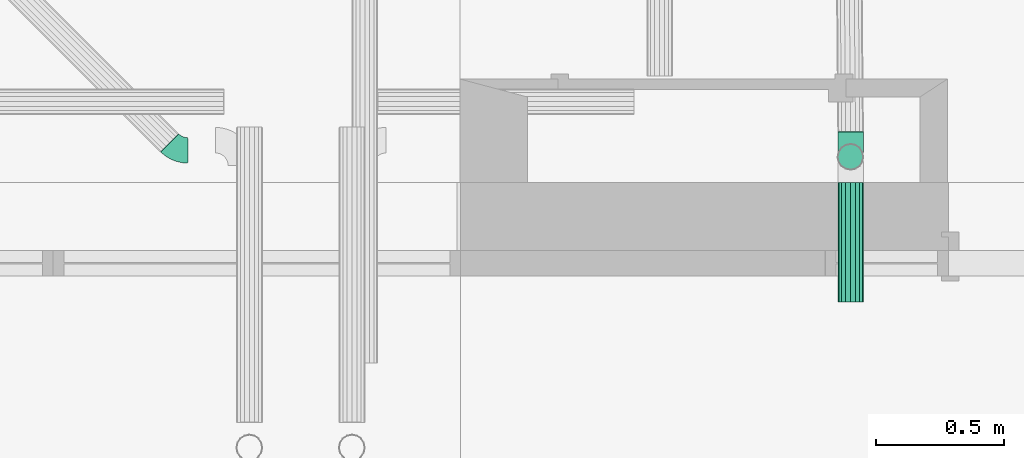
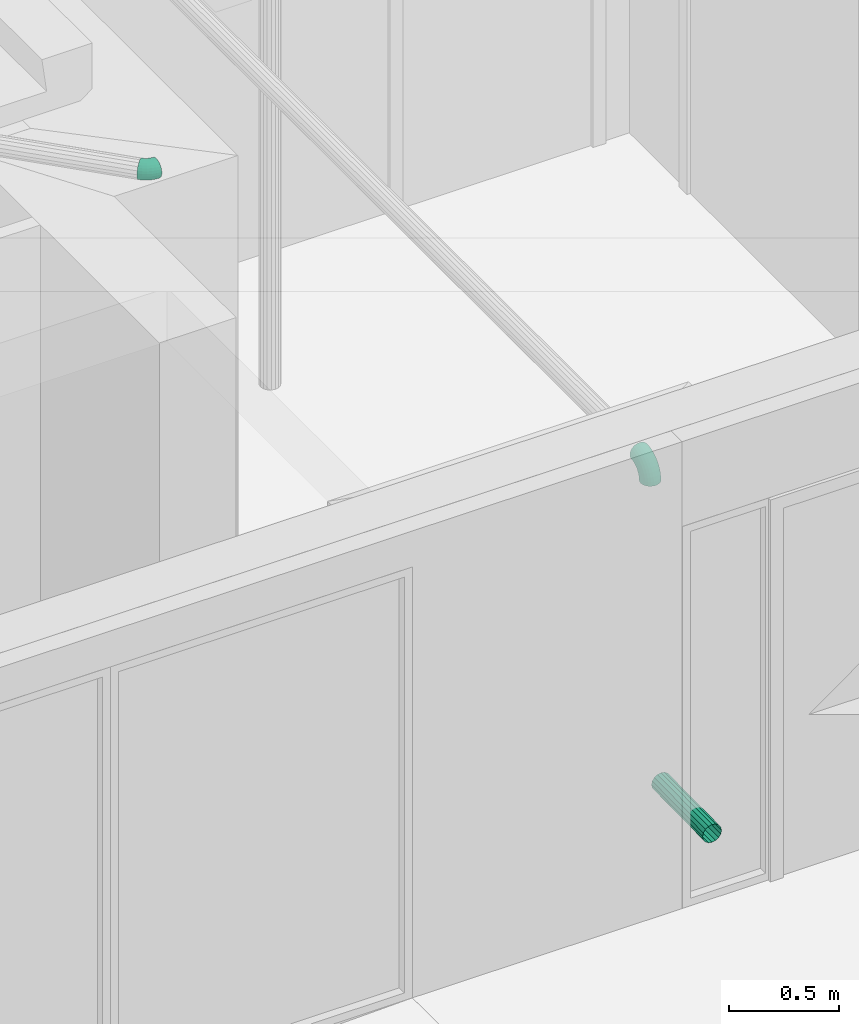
# One storey, part 72 of 108: 2 flow fittings, 1 flow segment.
"""IFC2X3 building model written with IfcOpenShell, lengths in metres."""

from ifc_helpers import new_model, entity, si_unit, converted_unit, derived_unit, money_unit, direction, frame, origin_with_axes, place, context, subcontext, project, spatial, open_shell, faceted_brep, surface_model, material, type_object, element, save


model = new_model("IFC2X3")

# Units and contexts
model_context = context("Model", 3, precision=1e-05, world=origin_with_axes(), true_north=direction((0.0, 1.0)))
body_context = subcontext(model_context, "Body", "Model", "MODEL_VIEW", scale=1.0)
ifc_project = project(units=[si_unit("LENGTHUNIT", "METRE"), si_unit("AREAUNIT", "SQUARE_METRE"), si_unit("VOLUMEUNIT", "CUBIC_METRE"), si_unit("ABSORBEDDOSEUNIT", "GRAY"), si_unit("AMOUNTOFSUBSTANCEUNIT", "MOLE"), si_unit("DOSEEQUIVALENTUNIT", "SIEVERT"), si_unit("ELECTRICCAPACITANCEUNIT", "FARAD"), si_unit("ELECTRICCHARGEUNIT", "COULOMB"), si_unit("ELECTRICCONDUCTANCEUNIT", "SIEMENS"), si_unit("ELECTRICCURRENTUNIT", "AMPERE"), si_unit("ELECTRICRESISTANCEUNIT", "OHM"), si_unit("ELECTRICVOLTAGEUNIT", "VOLT"), si_unit("ENERGYUNIT", "JOULE"), si_unit("FORCEUNIT", "NEWTON"), si_unit("FREQUENCYUNIT", "HERTZ"), si_unit("ILLUMINANCEUNIT", "LUX"), si_unit("INDUCTANCEUNIT", "HENRY"), si_unit("LUMINOUSFLUXUNIT", "LUMEN"), si_unit("LUMINOUSINTENSITYUNIT", "CANDELA"), si_unit("MAGNETICFLUXDENSITYUNIT", "TESLA"), si_unit("MAGNETICFLUXUNIT", "WEBER"), si_unit("MASSUNIT", "GRAM"), converted_unit("PLANEANGLEUNIT", "degree", entity("IfcReal", 0.0174532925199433), si_unit("PLANEANGLEUNIT", "RADIAN"), dimensions=[0, 0, 0, 0, 0, 0, 0]), si_unit("POWERUNIT", "WATT"), si_unit("PRESSUREUNIT", "PASCAL"), si_unit("RADIOACTIVITYUNIT", "BECQUEREL"), si_unit("SOLIDANGLEUNIT", "STERADIAN"), si_unit("THERMODYNAMICTEMPERATUREUNIT", "KELVIN"), si_unit("TIMEUNIT", "SECOND"), derived_unit("ACCELERATIONUNIT", [(si_unit("LENGTHUNIT", "METRE"), 1), (si_unit("TIMEUNIT", "SECOND"), -2)]), derived_unit("ANGULARVELOCITYUNIT", [(converted_unit("PLANEANGLEUNIT", "degree", entity("IfcReal", 0.0174532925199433), si_unit("PLANEANGLEUNIT", "RADIAN"), dimensions=[0, 0, 0, 0, 0, 0, 0]), 1), (si_unit("TIMEUNIT", "SECOND"), -1)]), derived_unit("CURVATUREUNIT", [(converted_unit("PLANEANGLEUNIT", "degree", entity("IfcReal", 0.0174532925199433), si_unit("PLANEANGLEUNIT", "RADIAN"), dimensions=[0, 0, 0, 0, 0, 0, 0]), 1), (si_unit("LENGTHUNIT", "METRE"), -1)]), derived_unit("DYNAMICVISCOSITYUNIT", [(si_unit("PRESSUREUNIT", "PASCAL"), 1), (si_unit("TIMEUNIT", "SECOND"), 1)]), derived_unit("HEATFLUXDENSITYUNIT", [(si_unit("POWERUNIT", "WATT"), 1), (si_unit("LENGTHUNIT", "METRE"), -2)]), derived_unit("HEATINGVALUEUNIT", [(si_unit("ENERGYUNIT", "JOULE"), 1), (si_unit("MASSUNIT", "GRAM"), -1)]), derived_unit("INTEGERCOUNTRATEUNIT", [(si_unit("TIMEUNIT", "SECOND"), -1)]), derived_unit("IONCONCENTRATIONUNIT", [(si_unit("MASSUNIT", "GRAM"), 1), (si_unit("VOLUMEUNIT", "CUBIC_METRE"), -1)]), derived_unit("ISOTHERMALMOISTURECAPACITYUNIT", [(si_unit("VOLUMEUNIT", "CUBIC_METRE"), 1), (si_unit("MASSUNIT", "GRAM"), -1)]), derived_unit("KINEMATICVISCOSITYUNIT", [(si_unit("AREAUNIT", "SQUARE_METRE"), 1), (si_unit("TIMEUNIT", "SECOND"), -1)]), derived_unit("LINEARFORCEUNIT", [(si_unit("FORCEUNIT", "NEWTON"), 1), (si_unit("LENGTHUNIT", "METRE"), -1)]), derived_unit("LINEARMOMENTUNIT", [(si_unit("FORCEUNIT", "NEWTON"), 1), (si_unit("LENGTHUNIT", "METRE"), -1)]), derived_unit("LINEARSTIFFNESSUNIT", [(si_unit("FORCEUNIT", "NEWTON"), 1), (si_unit("LENGTHUNIT", "METRE"), -1)]), derived_unit("LINEARVELOCITYUNIT", [(si_unit("LENGTHUNIT", "METRE"), 1), (si_unit("TIMEUNIT", "SECOND"), -1)]), derived_unit("LUMINOUSINTENSITYDISTRIBUTIONUNIT", [(si_unit("LUMINOUSINTENSITYUNIT", "CANDELA"), 1), (si_unit("LUMINOUSFLUXUNIT", "LUMEN"), -1)]), derived_unit("MASSDENSITYUNIT", [(si_unit("MASSUNIT", "GRAM"), 1), (si_unit("VOLUMEUNIT", "CUBIC_METRE"), -1)]), derived_unit("MASSFLOWRATEUNIT", [(si_unit("MASSUNIT", "GRAM"), 1), (si_unit("TIMEUNIT", "SECOND"), -1)]), derived_unit("MASSPERLENGTHUNIT", [(si_unit("MASSUNIT", "GRAM"), 1), (si_unit("LENGTHUNIT", "METRE"), -1)]), derived_unit("MODULUSOFELASTICITYUNIT", [(si_unit("FORCEUNIT", "NEWTON"), 1), (si_unit("AREAUNIT", "SQUARE_METRE"), -1)]), derived_unit("MODULUSOFLINEARSUBGRADEREACTIONUNIT", [(si_unit("FORCEUNIT", "NEWTON"), 1), (si_unit("LENGTHUNIT", "METRE"), -2)]), derived_unit("MODULUSOFROTATIONALSUBGRADEREACTIONUNIT", [(si_unit("FORCEUNIT", "NEWTON"), 1), (si_unit("LENGTHUNIT", "METRE"), 1)]), derived_unit("MODULUSOFSUBGRADEREACTIONUNIT", [(si_unit("FORCEUNIT", "NEWTON"), 1), (si_unit("VOLUMEUNIT", "CUBIC_METRE"), -1)]), derived_unit("MOISTUREDIFFUSIVITYUNIT", [(si_unit("VOLUMEUNIT", "CUBIC_METRE"), 1), (si_unit("TIMEUNIT", "SECOND"), -1)]), derived_unit("MOLECULARWEIGHTUNIT", [(si_unit("MASSUNIT", "GRAM"), 1), (si_unit("AMOUNTOFSUBSTANCEUNIT", "MOLE"), -1)]), derived_unit("PLANARFORCEUNIT", [(si_unit("FORCEUNIT", "NEWTON"), 1), (si_unit("LENGTHUNIT", "METRE"), -2)]), derived_unit("ROTATIONALFREQUENCYUNIT", [(si_unit("TIMEUNIT", "SECOND"), -1)]), derived_unit("ROTATIONALMASSUNIT", [(si_unit("MASSUNIT", "GRAM"), 1), (si_unit("LENGTHUNIT", "METRE"), 2)]), derived_unit("ROTATIONALSTIFFNESSUNIT", [(si_unit("FORCEUNIT", "NEWTON"), 1), (si_unit("LENGTHUNIT", "METRE"), 1), (converted_unit("PLANEANGLEUNIT", "degree", entity("IfcReal", 0.0174532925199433), si_unit("PLANEANGLEUNIT", "RADIAN"), dimensions=[0, 0, 0, 0, 0, 0, 0]), -1)]), derived_unit("SECTIONAREAINTEGRALUNIT", [(si_unit("LENGTHUNIT", "METRE"), 5)]), derived_unit("SECTIONMODULUSUNIT", [(si_unit("LENGTHUNIT", "METRE"), 3)]), derived_unit("SHEARMODULUSUNIT", [(si_unit("FORCEUNIT", "NEWTON"), 1), (si_unit("AREAUNIT", "SQUARE_METRE"), -1)]), derived_unit("SOUNDPOWERUNIT", [(si_unit("ENERGYUNIT", "JOULE"), 1), (si_unit("TIMEUNIT", "SECOND"), -1)]), derived_unit("SPECIFICHEATCAPACITYUNIT", [(si_unit("FORCEUNIT", "NEWTON"), 1), (si_unit("MASSUNIT", "GRAM"), -1), (si_unit("THERMODYNAMICTEMPERATUREUNIT", "KELVIN"), -1)]), derived_unit("TEMPERATUREGRADIENTUNIT", [(si_unit("THERMODYNAMICTEMPERATUREUNIT", "KELVIN"), 1), (si_unit("LENGTHUNIT", "METRE"), -1)]), derived_unit("THERMALADMITTANCEUNIT", [(si_unit("POWERUNIT", "WATT"), 1), (si_unit("AREAUNIT", "SQUARE_METRE"), -1), (si_unit("THERMODYNAMICTEMPERATUREUNIT", "KELVIN"), -1)]), derived_unit("THERMALCONDUCTANCEUNIT", [(si_unit("POWERUNIT", "WATT"), 1), (si_unit("LENGTHUNIT", "METRE"), -1), (si_unit("THERMODYNAMICTEMPERATUREUNIT", "KELVIN"), -1)]), derived_unit("THERMALEXPANSIONCOEFFICIENTUNIT", [(si_unit("THERMODYNAMICTEMPERATUREUNIT", "KELVIN"), -1)]), derived_unit("THERMALRESISTANCEUNIT", [(si_unit("AREAUNIT", "SQUARE_METRE"), 1), (si_unit("POWERUNIT", "WATT"), -1)]), derived_unit("THERMALTRANSMITTANCEUNIT", [(si_unit("POWERUNIT", "WATT"), 1), (si_unit("AREAUNIT", "SQUARE_METRE"), -1), (si_unit("THERMODYNAMICTEMPERATUREUNIT", "KELVIN"), -1)]), derived_unit("TORQUEUNIT", [(si_unit("FORCEUNIT", "NEWTON"), 1), (si_unit("LENGTHUNIT", "METRE"), 1)]), derived_unit("VAPORPERMEABILITYUNIT", [(si_unit("MASSUNIT", "GRAM"), 1), (si_unit("TIMEUNIT", "SECOND"), -1)]), derived_unit("VOLUMETRICFLOWRATEUNIT", [(si_unit("VOLUMEUNIT", "CUBIC_METRE"), 1), (si_unit("TIMEUNIT", "SECOND"), -1)]), derived_unit("WARPINGCONSTANTUNIT", [(si_unit("LENGTHUNIT", "METRE"), 6)]), derived_unit("WARPINGMOMENTUNIT", [(si_unit("FORCEUNIT", "NEWTON"), 1), (si_unit("LENGTHUNIT", "METRE"), 2)]), money_unit("GBP")], contexts=[model_context])

# Site, building, storey
site_placement = place(None, origin_with_axes())
site = spatial("IfcSite", under=ifc_project, at=site_placement, Name="Site", CompositionType="ELEMENT")
building_placement = place(site_placement, origin_with_axes())
building = spatial("IfcBuilding", under=site, at=building_placement, Name="Building01", CompositionType="ELEMENT")
storey_placement = place(building_placement, origin_with_axes())
storey = spatial("IfcBuildingStorey", under=building, at=storey_placement, Name="GF", CompositionType="ELEMENT", Elevation=0.0)

# Flow segment
ifc_material = material(Name="M_BSUK_ColdWater")
pipe_segment_type = type_object("IfcPipeSegmentType", Name="M-BmpStraightpipe-DefaultPipe", PredefinedType="RIGIDSEGMENT")
flow_segment_placement = place(storey_placement, frame((15.645168, 3.824587, 0.449996), z_axis=(0.0, -0.01249902, 0.99992188), x_axis=(0.0, -0.99992188, -0.01249902)))
element("IfcFlowSegment", 1, at=flow_segment_placement, inside=storey, type_object=pipe_segment_type, material=ifc_material, Name="M-BmpStraightpipe-DefaultPipe", ObjectType="M-BmpStraightpipe-DefaultPipe", context=body_context, shape_type="Brep", body=[
    faceted_brep([(0.466449, 0.0, -0.05), (0.0, 0.0, -0.05), (0.0, 0.019134, -0.046194), (0.466449, 0.019134, -0.046194), (0.0, 0.035355, -0.035355), (0.466449, 0.035355, -0.035355), (0.0, 0.046194, -0.019134), (0.466449, 0.046194, -0.019134), (0.0, 0.05, 0.0), (0.466449, 0.05, 0.0), (0.0, 0.046194, 0.019134), (0.466449, 0.046194, 0.019134), (0.0, 0.035355, 0.035355), (0.466449, 0.035355, 0.035355), (0.0, 0.019134, 0.046194), (0.466449, 0.019134, 0.046194), (0.0, 0.0, 0.05), (0.466449, 0.0, 0.05), (0.0, -0.019134, 0.046194), (0.466449, -0.019134, 0.046194), (0.0, -0.035355, 0.035355), (0.466449, -0.035355, 0.035355), (0.0, -0.046194, 0.019134), (0.466449, -0.046194, 0.019134), (0.0, -0.05, 0.0), (0.466449, -0.05, 0.0), (0.0, -0.046194, -0.019134), (0.466449, -0.046194, -0.019134), (0.0, -0.035355, -0.035355), (0.466449, -0.035355, -0.035355), (0.0, -0.019134, -0.046194), (0.466449, -0.019134, -0.046194)], [[[0, 1, 2, 3]], [[3, 2, 4, 5]], [[5, 4, 6, 7]], [[7, 6, 8, 9]], [[9, 8, 10, 11]], [[11, 10, 12, 13]], [[13, 12, 14, 15]], [[15, 14, 16, 17]], [[17, 16, 18, 19]], [[19, 18, 20, 21]], [[21, 20, 22, 23]], [[23, 22, 24, 25]], [[25, 24, 26, 27]], [[27, 26, 28, 29]], [[29, 28, 30, 31]], [[31, 30, 1, 0]]]),
])

# Flow fitting
pipe_fitting_type = type_object("IfcPipeFittingType", Name="M-BmpElbow-DefaultElbow", PredefinedType="BEND")
flow_fitting_1_placement = place(storey_placement, frame((12.988229, 3.978246, 4.70036), z_axis=(-0.70705155, -0.70714306, 0.00517679), x_axis=(0.70705155, -0.70705154, -0.01249902)))
element("IfcFlowFitting", 2, at=flow_fitting_1_placement, inside=storey, type_object=pipe_fitting_type, material=ifc_material, Name="M-BmpElbow-DefaultElbow", ObjectType="M-BmpElbow-DefaultElbow", context=body_context, shape_type="SurfaceModel", body=[
    surface_model("IfcShellBasedSurfaceModel", [(0.008111, -0.01349, -0.048784), (0.0, -0.01349, -0.048146), (0.0, 0.0, -0.05), (0.007821, 0.0, -0.050615), (0.016023, -0.01349, -0.050683), (0.01545, 0.0, -0.052447), (0.023539, -0.01349, -0.053797), (0.022698, 0.0, -0.055449), (0.030477, -0.01349, -0.058048), (0.029387, 0.0, -0.059548), (0.036664, -0.01349, -0.063331), (0.035353, 0.0, -0.064642), (0.00896, -0.025979, -0.043426), (0.0, -0.025979, -0.042721), (0.017699, -0.025979, -0.045524), (0.026002, -0.025979, -0.048963), (0.033665, -0.025979, -0.053659), (0.0405, -0.025979, -0.059495), (0.010304, -0.036542, -0.034939), (0.0, -0.036542, -0.034128), (0.020354, -0.036542, -0.037351), (0.029903, -0.036542, -0.041306), (0.038716, -0.036542, -0.046706), (0.046576, -0.036542, -0.053418), (0.012044, -0.044394, -0.023951), (0.0, -0.044394, -0.023003), (0.023791, -0.044394, -0.026771), (0.034953, -0.044394, -0.031394), (0.045254, -0.044394, -0.037706), (0.054441, -0.044394, -0.045552), (0.014051, -0.048954, -0.011279), (0.0, -0.048954, -0.010173), (0.027756, -0.048954, -0.014569), (0.040778, -0.048954, -0.019962), (0.052795, -0.048954, -0.027326), (0.063513, -0.048954, -0.036478), (0.016176, -0.049883, 0.002139), (0.0, -0.049883, 0.003412), (0.031954, -0.049883, -0.001648), (0.046945, -0.049883, -0.007857), (0.06078, -0.049883, -0.016335), (0.073119, -0.049883, -0.026872), (0.018261, -0.047113, 0.015307), (0.0, -0.047113, 0.016744), (0.036073, -0.047113, 0.011031), (0.052997, -0.047113, 0.004022), (0.068616, -0.047113, -0.005549), (0.082545, -0.047113, -0.017444), (0.020152, -0.040848, 0.027248), (0.0, -0.040848, 0.028834), (0.039809, -0.040848, 0.022529), (0.058485, -0.040848, 0.014794), (0.075721, -0.040848, 0.004233), (0.091094, -0.040848, -0.008895), (0.021709, -0.031554, 0.037077), (0.0, -0.031554, 0.038786), (0.042884, -0.031554, 0.031994), (0.063003, -0.031554, 0.023661), (0.08157, -0.031554, 0.012284), (0.09813, -0.031554, -0.001857), (0.022816, -0.01992, 0.044065), (0.0, -0.01992, 0.045861), (0.04507, -0.01992, 0.038723), (0.066214, -0.01992, 0.029965), (0.085729, -0.01992, 0.018008), (0.103132, -0.01992, 0.003146), (0.02339, -0.006808, 0.047694), (0.0, -0.006808, 0.049534), (0.046205, -0.006808, 0.042217), (0.067882, -0.006808, 0.033239), (0.087888, -0.006808, 0.02098), (0.10573, -0.006808, 0.005744), (0.02339, 0.006808, 0.047694), (0.0, 0.006808, 0.049534), (0.046205, 0.006808, 0.042217), (0.067882, 0.006808, 0.033239), (0.087888, 0.006808, 0.02098), (0.10573, 0.006808, 0.005744), (0.022816, 0.01992, 0.044065), (0.0, 0.01992, 0.045861), (0.04507, 0.01992, 0.038723), (0.066214, 0.01992, 0.029965), (0.085729, 0.01992, 0.018008), (0.103132, 0.01992, 0.003146), (0.021709, 0.031554, 0.037077), (0.0, 0.031554, 0.038786), (0.042884, 0.031554, 0.031994), (0.063003, 0.031554, 0.023661), (0.08157, 0.031554, 0.012284), (0.09813, 0.031554, -0.001857), (0.020152, 0.040848, 0.027248), (0.0, 0.040848, 0.028834), (0.039809, 0.040848, 0.022529), (0.058485, 0.040848, 0.014794), (0.075721, 0.040848, 0.004233), (0.091094, 0.040848, -0.008895), (0.018261, 0.047113, 0.015307), (0.0, 0.047113, 0.016744), (0.036073, 0.047113, 0.011031), (0.052997, 0.047113, 0.004022), (0.068616, 0.047113, -0.005549), (0.082545, 0.047113, -0.017444), (0.016176, 0.049883, 0.002139), (0.0, 0.049883, 0.003412), (0.031954, 0.049883, -0.001648), (0.046945, 0.049883, -0.007857), (0.06078, 0.049883, -0.016335), (0.073119, 0.049883, -0.026872), (0.014051, 0.048954, -0.011279), (0.0, 0.048954, -0.010173), (0.027756, 0.048954, -0.014569), (0.040778, 0.048954, -0.019962), (0.052795, 0.048954, -0.027326), (0.063513, 0.048954, -0.036478), (0.012044, 0.044394, -0.023951), (0.0, 0.044394, -0.023003), (0.023791, 0.044394, -0.026771), (0.034953, 0.044394, -0.031394), (0.045254, 0.044394, -0.037706), (0.054441, 0.044394, -0.045552), (0.010304, 0.036542, -0.034939), (0.0, 0.036542, -0.034128), (0.020354, 0.036542, -0.037351), (0.029903, 0.036542, -0.041306), (0.038716, 0.036542, -0.046706), (0.046576, 0.036542, -0.053418), (0.00896, 0.025979, -0.043426), (0.0, 0.025979, -0.042721), (0.017699, 0.025979, -0.045524), (0.026002, 0.025979, -0.048963), (0.033665, 0.025979, -0.053659), (0.0405, 0.025979, -0.059495), (0.008111, 0.01349, -0.048784), (0.0, 0.01349, -0.048146), (0.016023, 0.01349, -0.050683), (0.023539, 0.01349, -0.053797), (0.030477, 0.01349, -0.058048), (0.036664, 0.01349, -0.063331)], [open_shell([[[0, 1, 2, 3]], [[4, 0, 3, 5]], [[6, 4, 5, 7]], [[8, 6, 7, 9]], [[10, 8, 9, 11]], [[12, 13, 1, 0]], [[14, 12, 0, 4]], [[15, 14, 4, 6]], [[16, 15, 6, 8]], [[17, 16, 8, 10]], [[18, 19, 13, 12]], [[20, 18, 12, 14]], [[21, 20, 14, 15]], [[22, 21, 15, 16]], [[23, 22, 16, 17]], [[24, 25, 19, 18]], [[26, 24, 18, 20]], [[27, 26, 20, 21]], [[28, 27, 21, 22]], [[29, 28, 22, 23]], [[30, 31, 25, 24]], [[32, 30, 24, 26]], [[33, 32, 26, 27]], [[34, 33, 27, 28]], [[35, 34, 28, 29]], [[36, 37, 31, 30]], [[38, 36, 30, 32]], [[39, 38, 32, 33]], [[40, 39, 33, 34]], [[41, 40, 34, 35]], [[42, 43, 37, 36]], [[44, 42, 36, 38]], [[45, 44, 38, 39]], [[46, 45, 39, 40]], [[47, 46, 40, 41]], [[48, 49, 43, 42]], [[50, 48, 42, 44]], [[51, 50, 44, 45]], [[52, 51, 45, 46]], [[53, 52, 46, 47]], [[54, 55, 49, 48]], [[56, 54, 48, 50]], [[57, 56, 50, 51]], [[58, 57, 51, 52]], [[59, 58, 52, 53]], [[60, 61, 55, 54]], [[62, 60, 54, 56]], [[63, 62, 56, 57]], [[64, 63, 57, 58]], [[65, 64, 58, 59]], [[66, 67, 61, 60]], [[68, 66, 60, 62]], [[69, 68, 62, 63]], [[70, 69, 63, 64]], [[71, 70, 64, 65]], [[72, 73, 67, 66]], [[74, 72, 66, 68]], [[75, 74, 68, 69]], [[76, 75, 69, 70]], [[77, 76, 70, 71]], [[78, 79, 73, 72]], [[80, 78, 72, 74]], [[81, 80, 74, 75]], [[82, 81, 75, 76]], [[83, 82, 76, 77]], [[84, 85, 79, 78]], [[86, 84, 78, 80]], [[87, 86, 80, 81]], [[88, 87, 81, 82]], [[89, 88, 82, 83]], [[90, 91, 85, 84]], [[92, 90, 84, 86]], [[93, 92, 86, 87]], [[94, 93, 87, 88]], [[95, 94, 88, 89]], [[96, 97, 91, 90]], [[98, 96, 90, 92]], [[99, 98, 92, 93]], [[100, 99, 93, 94]], [[101, 100, 94, 95]], [[102, 103, 97, 96]], [[104, 102, 96, 98]], [[105, 104, 98, 99]], [[106, 105, 99, 100]], [[107, 106, 100, 101]], [[108, 109, 103, 102]], [[110, 108, 102, 104]], [[111, 110, 104, 105]], [[112, 111, 105, 106]], [[113, 112, 106, 107]], [[114, 115, 109, 108]], [[116, 114, 108, 110]], [[117, 116, 110, 111]], [[118, 117, 111, 112]], [[119, 118, 112, 113]], [[120, 121, 115, 114]], [[122, 120, 114, 116]], [[123, 122, 116, 117]], [[124, 123, 117, 118]], [[125, 124, 118, 119]], [[126, 127, 121, 120]], [[128, 126, 120, 122]], [[129, 128, 122, 123]], [[130, 129, 123, 124]], [[131, 130, 124, 125]], [[132, 133, 127, 126]], [[134, 132, 126, 128]], [[135, 134, 128, 129]], [[136, 135, 129, 130]], [[137, 136, 130, 131]], [[3, 2, 133, 132]], [[5, 3, 132, 134]], [[7, 5, 134, 135]], [[9, 7, 135, 136]], [[11, 9, 136, 137]]])]),
])

# Space
space_placement = place(storey_placement, frame((14.38433, 4.15747, 0.0), z_axis=(0.0, 0.0, 1.0), x_axis=(0.0, -1.0, 0.0)))
space = spatial("IfcSpace", under=storey, at=space_placement, Name="1", CompositionType="ELEMENT", InteriorOrExteriorSpace="NOTDEFINED")

# Flow fitting
flow_fitting_2_placement = place(storey_placement, frame((15.645168, 3.923337, 2.069286), z_axis=(0.0, -1.0, 0.0), x_axis=(0.0, 0.0, 1.0)))
element("IfcFlowFitting", 3, at=flow_fitting_2_placement, inside=space, type_object=pipe_fitting_type, material=ifc_material, Name="M-BmpElbow-DefaultElbow", ObjectType="M-BmpElbow-DefaultElbow", context=body_context, shape_type="SurfaceModel", body=[
    surface_model("IfcShellBasedSurfaceModel", [(0.008048, -0.01349, -0.048774), (0.0, -0.01349, -0.048146), (0.0, 0.0, -0.05), (0.00776, 0.0, -0.050606), (0.0159, -0.01349, -0.050644), (0.015332, 0.0, -0.052409), (0.023368, -0.01349, -0.05371), (0.022532, 0.0, -0.055365), (0.030269, -0.01349, -0.057897), (0.029187, 0.0, -0.059403), (0.036437, -0.01349, -0.063105), (0.035134, 0.0, -0.064424), (0.041721, -0.01349, -0.069207), (0.040229, 0.0, -0.070308), (0.045995, -0.01349, -0.076055), (0.04435, 0.0, -0.076912), (0.049154, -0.01349, -0.083484), (0.047396, 0.0, -0.084074), (0.051121, -0.01349, -0.091313), (0.049293, 0.0, -0.091623), (0.05185, -0.01349, -0.099352), (0.049996, 0.0, -0.099375), (0.00889, -0.025979, -0.043415), (0.0, -0.025979, -0.042721), (0.017564, -0.025979, -0.04548), (0.025813, -0.025979, -0.048867), (0.033436, -0.025979, -0.053493), (0.040248, -0.025979, -0.059245), (0.046086, -0.025979, -0.065986), (0.050807, -0.025979, -0.07355), (0.054296, -0.025979, -0.081756), (0.056469, -0.025979, -0.090404), (0.057275, -0.025979, -0.099284), (0.010223, -0.036542, -0.034926), (0.0, -0.036542, -0.034128), (0.020199, -0.036542, -0.037301), (0.029685, -0.036542, -0.041196), (0.038452, -0.036542, -0.046515), (0.046287, -0.036542, -0.053131), (0.053, -0.036542, -0.060883), (0.058429, -0.036542, -0.069582), (0.062442, -0.036542, -0.079019), (0.064941, -0.036542, -0.088964), (0.065867, -0.036542, -0.099177), (0.01195, -0.044394, -0.023936), (0.0, -0.044394, -0.023003), (0.02361, -0.044394, -0.026712), (0.034698, -0.044394, -0.031265), (0.044946, -0.044394, -0.037483), (0.054104, -0.044394, -0.045216), (0.061951, -0.044394, -0.054277), (0.068296, -0.044394, -0.064445), (0.072987, -0.044394, -0.075476), (0.075908, -0.044394, -0.0871), (0.076991, -0.044394, -0.099038), (0.013941, -0.048954, -0.011261), (0.0, -0.048954, -0.010173), (0.027544, -0.048954, -0.0145), (0.04048, -0.048954, -0.019811), (0.052435, -0.048954, -0.027065), (0.063119, -0.048954, -0.036087), (0.072274, -0.048954, -0.046657), (0.079677, -0.048954, -0.058521), (0.085149, -0.048954, -0.071389), (0.088558, -0.048954, -0.084951), (0.08982, -0.048954, -0.098877), (0.01605, -0.049883, 0.002159), (0.0, -0.049883, 0.003412), (0.03171, -0.049883, -0.00157), (0.046602, -0.049883, -0.007684), (0.060365, -0.049883, -0.016035), (0.072665, -0.049883, -0.026421), (0.083204, -0.049883, -0.03859), (0.091727, -0.049883, -0.052247), (0.098026, -0.049883, -0.067062), (0.101951, -0.049883, -0.082675), (0.103404, -0.049883, -0.098707), (0.018119, -0.047113, 0.015329), (0.0, -0.047113, 0.016744), (0.035798, -0.047113, 0.01112), (0.05261, -0.047113, 0.004218), (0.068147, -0.047113, -0.00521), (0.082033, -0.047113, -0.016935), (0.093931, -0.047113, -0.030673), (0.103552, -0.047113, -0.046091), (0.110664, -0.047113, -0.062816), (0.115094, -0.047113, -0.080441), (0.116735, -0.047113, -0.098541), (0.019995, -0.040848, 0.027273), (0.0, -0.040848, 0.028834), (0.039505, -0.040848, 0.022628), (0.058059, -0.040848, 0.01501), (0.075205, -0.040848, 0.004606), (0.090528, -0.040848, -0.008333), (0.103658, -0.040848, -0.023494), (0.114276, -0.040848, -0.040508), (0.122124, -0.040848, -0.058965), (0.127013, -0.040848, -0.078416), (0.128824, -0.040848, -0.09839), (0.021539, -0.031554, 0.037104), (0.0, -0.031554, 0.038786), (0.042557, -0.031554, 0.0321), (0.062543, -0.031554, 0.023894), (0.081014, -0.031554, 0.012686), (0.097521, -0.031554, -0.001252), (0.111665, -0.031554, -0.017584), (0.123103, -0.031554, -0.035913), (0.131557, -0.031554, -0.055795), (0.136824, -0.031554, -0.076749), (0.138775, -0.031554, -0.098265), (0.022638, -0.01992, 0.044093), (0.0, -0.01992, 0.045861), (0.044726, -0.01992, 0.038834), (0.065732, -0.01992, 0.03021), (0.085144, -0.01992, 0.018431), (0.102492, -0.01992, 0.003782), (0.117357, -0.01992, -0.013383), (0.129378, -0.01992, -0.032646), (0.138264, -0.01992, -0.053542), (0.143799, -0.01992, -0.075563), (0.145849, -0.01992, -0.098177), (0.023208, -0.006808, 0.047722), (0.0, -0.006808, 0.049534), (0.045853, -0.006808, 0.042331), (0.067387, -0.006808, 0.03349), (0.087288, -0.006808, 0.021414), (0.105074, -0.006808, 0.006395), (0.120313, -0.006808, -0.011201), (0.132637, -0.006808, -0.03095), (0.141746, -0.006808, -0.052372), (0.147421, -0.006808, -0.074948), (0.149523, -0.006808, -0.098131), (0.023208, 0.006808, 0.047722), (0.0, 0.006808, 0.049534), (0.045853, 0.006808, 0.042331), (0.067387, 0.006808, 0.03349), (0.087288, 0.006808, 0.021414), (0.105074, 0.006808, 0.006395), (0.120313, 0.006808, -0.011201), (0.132637, 0.006808, -0.03095), (0.141746, 0.006808, -0.052372), (0.147421, 0.006808, -0.074948), (0.149523, 0.006808, -0.098131), (0.022638, 0.01992, 0.044093), (0.0, 0.01992, 0.045861), (0.044726, 0.01992, 0.038834), (0.065732, 0.01992, 0.03021), (0.085144, 0.01992, 0.018431), (0.102492, 0.01992, 0.003782), (0.117357, 0.01992, -0.013383), (0.129378, 0.01992, -0.032646), (0.138264, 0.01992, -0.053542), (0.143799, 0.01992, -0.075563), (0.145849, 0.01992, -0.098177), (0.021539, 0.031554, 0.037104), (0.0, 0.031554, 0.038786), (0.042557, 0.031554, 0.0321), (0.062543, 0.031554, 0.023894), (0.081014, 0.031554, 0.012686), (0.097521, 0.031554, -0.001252), (0.111665, 0.031554, -0.017584), (0.123103, 0.031554, -0.035913), (0.131557, 0.031554, -0.055795), (0.136824, 0.031554, -0.076749), (0.138775, 0.031554, -0.098265), (0.019995, 0.040848, 0.027273), (0.0, 0.040848, 0.028834), (0.039505, 0.040848, 0.022628), (0.058059, 0.040848, 0.01501), (0.075205, 0.040848, 0.004606), (0.090528, 0.040848, -0.008333), (0.103658, 0.040848, -0.023494), (0.114276, 0.040848, -0.040508), (0.122124, 0.040848, -0.058965), (0.127013, 0.040848, -0.078416), (0.128824, 0.040848, -0.09839), (0.018119, 0.047113, 0.015329), (0.0, 0.047113, 0.016744), (0.035798, 0.047113, 0.01112), (0.05261, 0.047113, 0.004218), (0.068147, 0.047113, -0.00521), (0.082033, 0.047113, -0.016935), (0.093931, 0.047113, -0.030673), (0.103552, 0.047113, -0.046091), (0.110664, 0.047113, -0.062816), (0.115094, 0.047113, -0.080441), (0.116735, 0.047113, -0.098541), (0.01605, 0.049883, 0.002159), (0.0, 0.049883, 0.003412), (0.03171, 0.049883, -0.00157), (0.046602, 0.049883, -0.007684), (0.060365, 0.049883, -0.016035), (0.072665, 0.049883, -0.026421), (0.083204, 0.049883, -0.03859), (0.091727, 0.049883, -0.052247), (0.098026, 0.049883, -0.067062), (0.101951, 0.049883, -0.082675), (0.103404, 0.049883, -0.098707), (0.013941, 0.048954, -0.011261), (0.0, 0.048954, -0.010173), (0.027544, 0.048954, -0.0145), (0.04048, 0.048954, -0.019811), (0.052435, 0.048954, -0.027065), (0.063119, 0.048954, -0.036087), (0.072274, 0.048954, -0.046657), (0.079677, 0.048954, -0.058521), (0.085149, 0.048954, -0.071389), (0.088558, 0.048954, -0.084951), (0.08982, 0.048954, -0.098877), (0.01195, 0.044394, -0.023936), (0.0, 0.044394, -0.023003), (0.02361, 0.044394, -0.026712), (0.034698, 0.044394, -0.031265), (0.044946, 0.044394, -0.037483), (0.054104, 0.044394, -0.045216), (0.061951, 0.044394, -0.054277), (0.068296, 0.044394, -0.064445), (0.072987, 0.044394, -0.075476), (0.075908, 0.044394, -0.0871), (0.076991, 0.044394, -0.099038), (0.010223, 0.036542, -0.034926), (0.0, 0.036542, -0.034128), (0.020199, 0.036542, -0.037301), (0.029685, 0.036542, -0.041196), (0.038452, 0.036542, -0.046515), (0.046287, 0.036542, -0.053131), (0.053, 0.036542, -0.060883), (0.058429, 0.036542, -0.069582), (0.062442, 0.036542, -0.079019), (0.064941, 0.036542, -0.088964), (0.065867, 0.036542, -0.099177), (0.00889, 0.025979, -0.043415), (0.0, 0.025979, -0.042721), (0.017564, 0.025979, -0.04548), (0.025813, 0.025979, -0.048867), (0.033436, 0.025979, -0.053493), (0.040248, 0.025979, -0.059245), (0.046086, 0.025979, -0.065986), (0.050807, 0.025979, -0.07355), (0.054296, 0.025979, -0.081756), (0.056469, 0.025979, -0.090404), (0.057275, 0.025979, -0.099284), (0.008048, 0.01349, -0.048774), (0.0, 0.01349, -0.048146), (0.0159, 0.01349, -0.050644), (0.023368, 0.01349, -0.05371), (0.030269, 0.01349, -0.057897), (0.036437, 0.01349, -0.063105), (0.041721, 0.01349, -0.069207), (0.045995, 0.01349, -0.076055), (0.049154, 0.01349, -0.083484), (0.051121, 0.01349, -0.091313), (0.05185, 0.01349, -0.099352)], [open_shell([[[0, 1, 2, 3]], [[4, 0, 3, 5]], [[6, 4, 5, 7]], [[8, 6, 7, 9]], [[10, 8, 9, 11]], [[12, 10, 11, 13]], [[14, 12, 13, 15]], [[16, 14, 15, 17]], [[18, 16, 17, 19]], [[20, 18, 19, 21]], [[22, 23, 1, 0]], [[24, 22, 0, 4]], [[25, 24, 4, 6]], [[26, 25, 6, 8]], [[27, 26, 8, 10]], [[28, 27, 10, 12]], [[29, 28, 12, 14]], [[30, 29, 14, 16]], [[31, 30, 16, 18]], [[32, 31, 18, 20]], [[33, 34, 23, 22]], [[35, 33, 22, 24]], [[36, 35, 24, 25]], [[37, 36, 25, 26]], [[38, 37, 26, 27]], [[39, 38, 27, 28]], [[40, 39, 28, 29]], [[41, 40, 29, 30]], [[42, 41, 30, 31]], [[43, 42, 31, 32]], [[44, 45, 34, 33]], [[46, 44, 33, 35]], [[47, 46, 35, 36]], [[48, 47, 36, 37]], [[49, 48, 37, 38]], [[50, 49, 38, 39]], [[51, 50, 39, 40]], [[52, 51, 40, 41]], [[53, 52, 41, 42]], [[54, 53, 42, 43]], [[55, 56, 45, 44]], [[57, 55, 44, 46]], [[58, 57, 46, 47]], [[59, 58, 47, 48]], [[60, 59, 48, 49]], [[61, 60, 49, 50]], [[62, 61, 50, 51]], [[63, 62, 51, 52]], [[64, 63, 52, 53]], [[65, 64, 53, 54]], [[66, 67, 56, 55]], [[68, 66, 55, 57]], [[69, 68, 57, 58]], [[70, 69, 58, 59]], [[71, 70, 59, 60]], [[72, 71, 60, 61]], [[73, 72, 61, 62]], [[74, 73, 62, 63]], [[75, 74, 63, 64]], [[76, 75, 64, 65]], [[77, 78, 67, 66]], [[79, 77, 66, 68]], [[80, 79, 68, 69]], [[81, 80, 69, 70]], [[82, 81, 70, 71]], [[83, 82, 71, 72]], [[84, 83, 72, 73]], [[85, 84, 73, 74]], [[86, 85, 74, 75]], [[87, 86, 75, 76]], [[88, 89, 78, 77]], [[90, 88, 77, 79]], [[91, 90, 79, 80]], [[92, 91, 80, 81]], [[93, 92, 81, 82]], [[94, 93, 82, 83]], [[95, 94, 83, 84]], [[96, 95, 84, 85]], [[97, 96, 85, 86]], [[98, 97, 86, 87]], [[99, 100, 89, 88]], [[101, 99, 88, 90]], [[102, 101, 90, 91]], [[103, 102, 91, 92]], [[104, 103, 92, 93]], [[105, 104, 93, 94]], [[106, 105, 94, 95]], [[107, 106, 95, 96]], [[108, 107, 96, 97]], [[109, 108, 97, 98]], [[110, 111, 100, 99]], [[112, 110, 99, 101]], [[113, 112, 101, 102]], [[114, 113, 102, 103]], [[115, 114, 103, 104]], [[116, 115, 104, 105]], [[117, 116, 105, 106]], [[118, 117, 106, 107]], [[119, 118, 107, 108]], [[120, 119, 108, 109]], [[121, 122, 111, 110]], [[123, 121, 110, 112]], [[124, 123, 112, 113]], [[125, 124, 113, 114]], [[126, 125, 114, 115]], [[127, 126, 115, 116]], [[128, 127, 116, 117]], [[129, 128, 117, 118]], [[130, 129, 118, 119]], [[131, 130, 119, 120]], [[132, 133, 122, 121]], [[134, 132, 121, 123]], [[135, 134, 123, 124]], [[136, 135, 124, 125]], [[137, 136, 125, 126]], [[138, 137, 126, 127]], [[139, 138, 127, 128]], [[140, 139, 128, 129]], [[141, 140, 129, 130]], [[142, 141, 130, 131]], [[143, 144, 133, 132]], [[145, 143, 132, 134]], [[146, 145, 134, 135]], [[147, 146, 135, 136]], [[148, 147, 136, 137]], [[149, 148, 137, 138]], [[150, 149, 138, 139]], [[151, 150, 139, 140]], [[152, 151, 140, 141]], [[153, 152, 141, 142]], [[154, 155, 144, 143]], [[156, 154, 143, 145]], [[157, 156, 145, 146]], [[158, 157, 146, 147]], [[159, 158, 147, 148]], [[160, 159, 148, 149]], [[161, 160, 149, 150]], [[162, 161, 150, 151]], [[163, 162, 151, 152]], [[164, 163, 152, 153]], [[165, 166, 155, 154]], [[167, 165, 154, 156]], [[168, 167, 156, 157]], [[169, 168, 157, 158]], [[170, 169, 158, 159]], [[171, 170, 159, 160]], [[172, 171, 160, 161]], [[173, 172, 161, 162]], [[174, 173, 162, 163]], [[175, 174, 163, 164]], [[176, 177, 166, 165]], [[178, 176, 165, 167]], [[179, 178, 167, 168]], [[180, 179, 168, 169]], [[181, 180, 169, 170]], [[182, 181, 170, 171]], [[183, 182, 171, 172]], [[184, 183, 172, 173]], [[185, 184, 173, 174]], [[186, 185, 174, 175]], [[187, 188, 177, 176]], [[189, 187, 176, 178]], [[190, 189, 178, 179]], [[191, 190, 179, 180]], [[192, 191, 180, 181]], [[193, 192, 181, 182]], [[194, 193, 182, 183]], [[195, 194, 183, 184]], [[196, 195, 184, 185]], [[197, 196, 185, 186]], [[198, 199, 188, 187]], [[200, 198, 187, 189]], [[201, 200, 189, 190]], [[202, 201, 190, 191]], [[203, 202, 191, 192]], [[204, 203, 192, 193]], [[205, 204, 193, 194]], [[206, 205, 194, 195]], [[207, 206, 195, 196]], [[208, 207, 196, 197]], [[209, 210, 199, 198]], [[211, 209, 198, 200]], [[212, 211, 200, 201]], [[213, 212, 201, 202]], [[214, 213, 202, 203]], [[215, 214, 203, 204]], [[216, 215, 204, 205]], [[217, 216, 205, 206]], [[218, 217, 206, 207]], [[219, 218, 207, 208]], [[220, 221, 210, 209]], [[222, 220, 209, 211]], [[223, 222, 211, 212]], [[224, 223, 212, 213]], [[225, 224, 213, 214]], [[226, 225, 214, 215]], [[227, 226, 215, 216]], [[228, 227, 216, 217]], [[229, 228, 217, 218]], [[230, 229, 218, 219]], [[231, 232, 221, 220]], [[233, 231, 220, 222]], [[234, 233, 222, 223]], [[235, 234, 223, 224]], [[236, 235, 224, 225]], [[237, 236, 225, 226]], [[238, 237, 226, 227]], [[239, 238, 227, 228]], [[240, 239, 228, 229]], [[241, 240, 229, 230]], [[242, 243, 232, 231]], [[244, 242, 231, 233]], [[245, 244, 233, 234]], [[246, 245, 234, 235]], [[247, 246, 235, 236]], [[248, 247, 236, 237]], [[249, 248, 237, 238]], [[250, 249, 238, 239]], [[251, 250, 239, 240]], [[252, 251, 240, 241]], [[3, 2, 243, 242]], [[5, 3, 242, 244]], [[7, 5, 244, 245]], [[9, 7, 245, 246]], [[11, 9, 246, 247]], [[13, 11, 247, 248]], [[15, 13, 248, 249]], [[17, 15, 249, 250]], [[19, 17, 250, 251]], [[21, 19, 251, 252]]])]),
])

save(model, "model.ifc")
